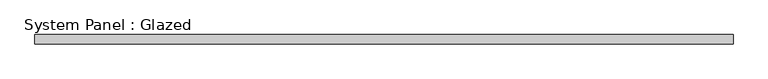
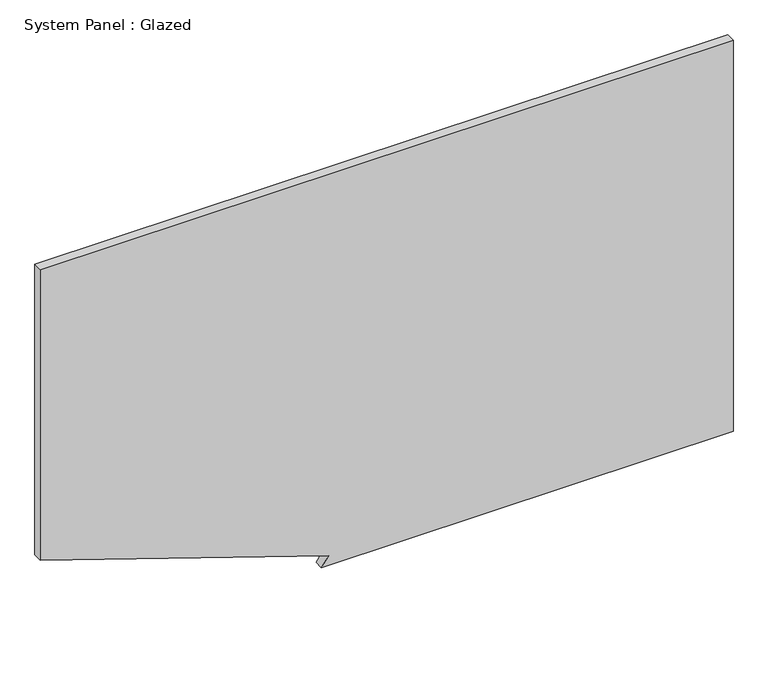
"""IFC4 building model written with IfcOpenShell, lengths in millimetres: plate geometry, System Panel : Glazed."""

from ifc_helpers import new_model, si_unit, frame, origin, place, context, project, spatial, polyline, outline, extrude, source, transform, mapped, element, save


def system_panel_glazed_a1864e1b(model_context):
    return source(origin(), model_context, "Body", "SweptSolid", [
        extrude(outline(polyline([(0.0, -182.3127692), (0.0, 968.375), (1155.7, 968.375), (1155.7, -968.375), (297.2056207, -968.375), (28.4913894, -162.232306), (0.0, -182.3127692)])), frame((0.0, -44.45, 0.0), z_axis=(0.0, 1.0, 0.0), x_axis=(0.0, 0.0, 1.0)), (0.0, 0.0, 1.0), 25.4),
    ])


if __name__ == "__main__":
    model = new_model("IFC4")
    model_context = context("Model", 3, world=origin())
    ifc_project = project(units=[si_unit("LENGTHUNIT", "METRE", prefix="MILLI")], contexts=[model_context])
    site = spatial("IfcSite", under=ifc_project)
    building = spatial("IfcBuilding", under=site)
    placement = place(None, origin())
    system_panel_glazed_shape = system_panel_glazed_a1864e1b(model_context)
    element("IfcPlate", 1, ObjectType="System Panel : Glazed", at=placement, inside=building, context=model_context, shape_type="MappedRepresentation", body=[
        mapped(system_panel_glazed_shape, transform((0.0, 0.0, 0.0), x_axis=(1.0, 0.0, 0.0), y_axis=(0.0, 1.0, 0.0), z_axis=(0.0, 0.0, 1.0))),
    ])
    save(model, "model.ifc")
